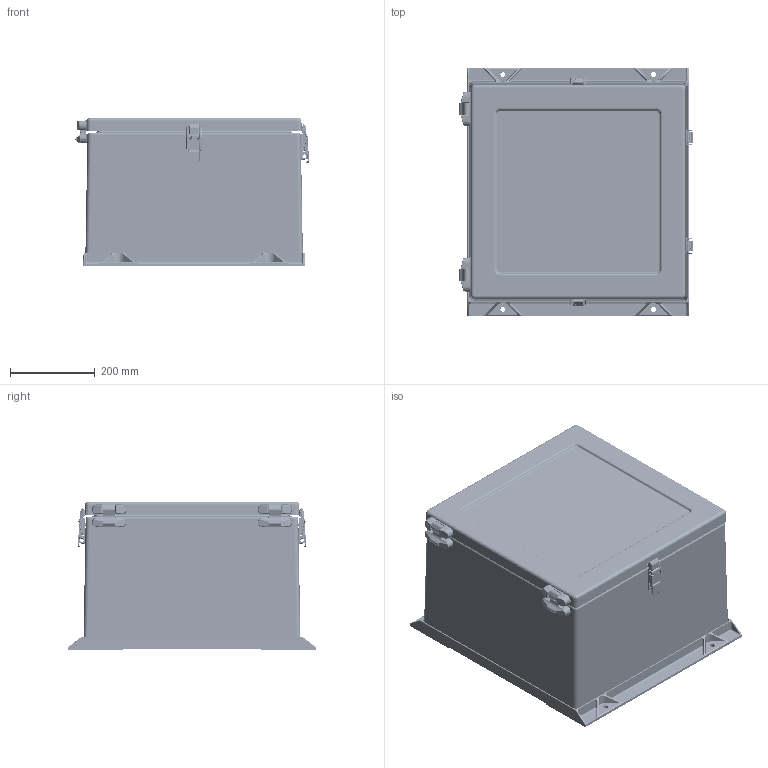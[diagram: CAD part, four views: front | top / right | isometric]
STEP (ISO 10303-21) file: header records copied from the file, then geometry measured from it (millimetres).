
FILE_DESCRIPTION (( 'STEP AP203' ), '1' );
FILE_NAME ('a20h2012gqrlp.STEP', '2012-03-16T21:40:40', ( 'Hoffman User' ), ( 'Hoffman Enclosures' ), 'SwSTEP 2.0', 'SolidWorks 2010', '' );
FILE_SCHEMA (( 'CONFIG_CONTROL_DESIGN' ));
Products named in the file (22): 14241007_14241007; 87949197_87949197; 87954688_87954688; 99416061_FLEX; 24352001; a20h2012gqrlp; 87926973; 87935459_87935456; 87926955; 87759496_87759496 DOOR CLOSED; 22293001; 87955618; 22292001; 87955597; 87955576; 87949216_87570567; 87926980; 87949250; 87949198_87949198; 87951276_Closed angled bail; 87951273_87951273; 87951274_87951274
Assembly tree (37 placements, depth 4):
  a20h2012gqrlp
    87954688_87954688  x4
    87949198_87949198  x4
    87951276_Closed angled bail  x4
      87951273_87951273
      14241007_14241007
      87951274_87951274
      87949197_87949197
    87759496_87759496 DOOR CLOSED  x2
      22293001
        87955576  x2
        87955618
      22292001
        87955576  x2
        87955597
      14241007_14241007
    99416061_FLEX
      24352001
    87949216_87570567
      87926980
      87949250
    87926973
      87926955
      87935459_87935456
Bounding box: 550.25 x 585.98 x 349.5 mm (x, y, z)
Volume: 5995480.4 mm3; surface area: 3124059.8 mm2
Topology: 49 solids, 49 shells, 7313 faces, 18145 edges, 10888 vertices
Faces by surface type: cylinder 2054, bspline 1942, plane 1849, torus 800, cone 388, sphere 280
Entity records: 120879 total; most frequent: CARTESIAN_POINT 51322, ORIENTED_EDGE 15234, DIRECTION 12179, EDGE_CURVE 7617, VERTEX_POINT 4713, AXIS2_PLACEMENT_3D 4216, LINE 3747, VECTOR 3747
